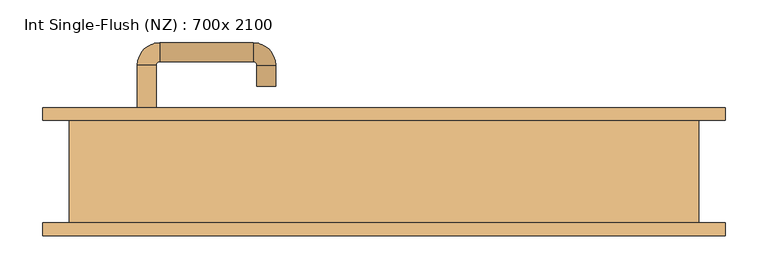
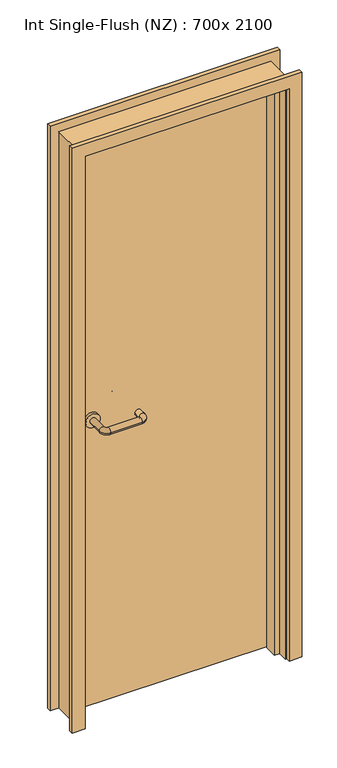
"""IFC4 building model written with IfcOpenShell, lengths in millimetres: door geometry, Int Single-Flush (NZ) : 700x 2100."""

import ifcopenshell
import ifcopenshell.guid

model = None  # the IFC model being written
_history = None  # IfcOwnerHistory: only IFC2X3 demands one
_inside = {}  # id of a spatial element -> (the spatial element, [elements in it])
_under = {}  # id of a project, library or spatial element -> (it, [spatial elements below it])
_declared = {}  # id of a project -> (the project, [libraries it declares])
_typed = {}  # id of a type object -> (the type object, [elements of that type])
_made_of = {}  # id of a material, layer set ... -> (it, [elements and type objects made of it])


def new_model(schema):
    """Start an empty IFC model of exactly this schema.

    Asked for "IFC4X3", IfcOpenShell would pick the latest addendum, in which some entities
    have other attributes; the version numbers below select the first issue.
    IFC2X3 requires an IfcOwnerHistory on every rooted entity: one is made here for all.
    """
    global model, _history
    if schema == "IFC4X3":
        model = ifcopenshell.file(schema_version=(4, 3, 0, 0))
    else:
        model = ifcopenshell.file(schema=schema)
    _inside.clear()
    _under.clear()
    _declared.clear()
    _typed.clear()
    _made_of.clear()
    _history = None
    if model.schema == "IFC2X3":
        org = make("IfcOrganization", Name="unknown")
        user = make(
            "IfcPersonAndOrganization",
            ThePerson=make("IfcPerson", FamilyName="unknown"),
            TheOrganization=org,
        )
        app = make(
            "IfcApplication",
            ApplicationDeveloper=org,
            Version="unknown",
            ApplicationFullName="unknown",
            ApplicationIdentifier="unknown",
        )
        _history = make(
            "IfcOwnerHistory",
            OwningUser=user,
            OwningApplication=app,
            ChangeAction="ADDED",
            CreationDate=0,
        )
    return model


def make(cls, **values):
    """One entity of the class cls with the attributes given. An attribute that is None is left unset."""
    return model.create_entity(
        cls, **{name: value for name, value in values.items() if value is not None}
    )


def rooted(cls, **values):
    """An entity with a GlobalId (a new one), such as an element, a storey or a relation."""
    return make(cls, GlobalId=ifcopenshell.guid.new(), OwnerHistory=_history, **values)


def si_unit(unit_type, name, prefix=None):
    """IfcSIUnit, for example si_unit("LENGTHUNIT", "METRE", prefix="MILLI")."""
    return make("IfcSIUnit", UnitType=unit_type, Prefix=prefix, Name=name)


def assignment(units):
    """IfcUnitAssignment: the units of a project."""
    return None if units is None else make("IfcUnitAssignment", Units=units)


def point(xyz):
    """IfcCartesianPoint."""
    return None if xyz is None else make("IfcCartesianPoint", Coordinates=xyz)


def direction(xyz):
    """IfcDirection."""
    return None if xyz is None else make("IfcDirection", DirectionRatios=xyz)


def frame(location, z_axis=None, x_axis=None):
    """IfcAxis2Placement3D, a coordinate frame: its origin and axes. An axis left out is left unset."""
    return make(
        "IfcAxis2Placement3D",
        Location=point(location),
        Axis=direction(z_axis),
        RefDirection=direction(x_axis),
    )


def frame_2d(location, x_axis=None):
    """IfcAxis2Placement2D, a coordinate frame in the plane: its origin and x axis."""
    return make(
        "IfcAxis2Placement2D", Location=point(location), RefDirection=direction(x_axis)
    )


def origin():
    """The frame at (0, 0, 0) with its axes left unset."""
    return frame((0.0, 0.0, 0.0))


def place(relative_to, where):
    """IfcLocalPlacement: puts the frame where relative to a parent placement (None: the world)."""
    return make(
        "IfcLocalPlacement", PlacementRelTo=relative_to, RelativePlacement=where
    )


def context(
    kind, dimensions, precision=None, world=None, true_north=None, identifier=None
):
    """IfcGeometricRepresentationContext, for example the 3D "Model" context."""
    return make(
        "IfcGeometricRepresentationContext",
        ContextIdentifier=identifier,
        ContextType=kind,
        CoordinateSpaceDimension=dimensions,
        Precision=precision,
        WorldCoordinateSystem=world,
        TrueNorth=true_north,
    )


def project(units=None, contexts=None):
    """IfcProject with its units and contexts."""
    return rooted(
        "IfcProject",
        Name="project",
        RepresentationContexts=contexts,
        UnitsInContext=assignment(units),
    )


def spatial(cls, under=None, at=None, **own):
    """A site, building, storey or space (cls), placed at a placement, below another one or the project."""
    s = rooted(cls, ObjectPlacement=at, **own)
    if under is not None:
        _under.setdefault(under.id(), (under, []))[1].append(s)
    return s


def polyline(points):
    """IfcPolyline through the points."""
    return make("IfcPolyline", Points=[point(p) for p in points])


def circle_curve(where, radius):
    """IfcCircle in the frame where."""
    return make("IfcCircle", Position=where, Radius=radius)


def ellipse_curve(where, semi_axis1, semi_axis2):
    """IfcEllipse in the frame where."""
    return make(
        "IfcEllipse", Position=where, SemiAxis1=semi_axis1, SemiAxis2=semi_axis2
    )


def trimmed(basis, trim1, trim2, sense, master):
    """IfcTrimmedCurve: the piece of a basis curve between two trims."""
    return make(
        "IfcTrimmedCurve",
        BasisCurve=basis,
        Trim1=trim1,
        Trim2=trim2,
        SenseAgreement=sense,
        MasterRepresentation=master,
    )


def segment(curve, same_sense, transition):
    """IfcCompositeCurveSegment."""
    return make(
        "IfcCompositeCurveSegment",
        Transition=transition,
        SameSense=same_sense,
        ParentCurve=curve,
    )


def composite_curve(segments, self_intersect=None):
    """IfcCompositeCurve: segments joined end to end."""
    return make("IfcCompositeCurve", Segments=segments, SelfIntersect=self_intersect)


def outline(outer, holes=None, kind="AREA"):
    """IfcArbitraryClosedProfileDef: a profile drawn as a closed curve; with holes, ...WithVoids."""
    if holes is None:
        return make("IfcArbitraryClosedProfileDef", ProfileType=kind, OuterCurve=outer)
    return make(
        "IfcArbitraryProfileDefWithVoids",
        ProfileType=kind,
        OuterCurve=outer,
        InnerCurves=holes,
    )


def extrude(swept, where, along, depth):
    """IfcExtrudedAreaSolid: the profile swept, set in the frame where, extruded along a direction by depth."""
    return make(
        "IfcExtrudedAreaSolid",
        SweptArea=swept,
        Position=where,
        ExtrudedDirection=direction(along),
        Depth=depth,
    )


def faces_of(points, faces, orient=None, outer=None):
    """IfcFace entities. A face is a list of loops; a loop is a list of indices into points, from 0.

    orient and outer hold one flag for each loop. By default every Orientation is true, the
    first loop of a face is its IfcFaceOuterBound and the others are IfcFaceBound.
    """
    made = []
    for i, loops in enumerate(faces):
        bounds = []
        for j, loop in enumerate(loops):
            is_outer = j == 0 if outer is None else outer[i][j]
            bounds.append(
                make(
                    "IfcFaceOuterBound" if is_outer else "IfcFaceBound",
                    Bound=make("IfcPolyLoop", Polygon=[points[k] for k in loop]),
                    Orientation=True if orient is None else orient[i][j],
                )
            )
        made.append(make("IfcFace", Bounds=bounds))
    return made


def faceted_brep(points, faces, orient=None, outer=None, voids=None):
    """IfcFacetedBrep: a solid bounded by flat faces; with voids (closed shells), ...WithVoids."""
    shared = [point(p) for p in points]
    hull = make("IfcClosedShell", CfsFaces=faces_of(shared, faces, orient, outer))
    if voids is None:
        return make("IfcFacetedBrep", Outer=hull)
    return make(
        "IfcFacetedBrepWithVoids",
        Outer=hull,
        Voids=[
            make(cls, CfsFaces=faces_of(shared, fs, o, b)) for cls, fs, o, b in voids
        ],
    )


def shape(context_of_items, identifier, shape_type, items):
    """IfcShapeRepresentation: the items that make up one representation, for example the "Body"."""
    return make(
        "IfcShapeRepresentation",
        ContextOfItems=context_of_items,
        RepresentationIdentifier=identifier,
        RepresentationType=shape_type,
        Items=items,
    )


def source(mapping_origin, context_of_items, identifier, shape_type, items):
    """IfcRepresentationMap: a shape defined once, which mapped items show again and again."""
    return make(
        "IfcRepresentationMap",
        MappingOrigin=mapping_origin,
        MappedRepresentation=shape(context_of_items, identifier, shape_type, items),
    )


def transform(
    local_origin,
    x_axis=None,
    y_axis=None,
    z_axis=None,
    scale=None,
    scale2=None,
    scale3=None,
    uniform=True,
):
    """IfcCartesianTransformationOperator3D, or its non-uniform kind. x_axis, y_axis, z_axis: its Axis1, 2, 3."""
    if uniform:
        return make(
            "IfcCartesianTransformationOperator3D",
            Axis1=direction(x_axis),
            Axis2=direction(y_axis),
            LocalOrigin=point(local_origin),
            Scale=scale,
            Axis3=direction(z_axis),
        )
    return make(
        "IfcCartesianTransformationOperator3DnonUniform",
        Axis1=direction(x_axis),
        Axis2=direction(y_axis),
        LocalOrigin=point(local_origin),
        Scale=scale,
        Axis3=direction(z_axis),
        Scale2=scale2,
        Scale3=scale3,
    )


def mapped(mapping_source, mapping_target):
    """IfcMappedItem: shows the shape of a source again, moved by a transform."""
    return make(
        "IfcMappedItem", MappingSource=mapping_source, MappingTarget=mapping_target
    )


def made_of(thing, what):
    """Note that an element or type object is made of a material, layer set ...; save() writes the relation."""
    if what is not None:
        _made_of.setdefault(what.id(), (what, []))[1].append(thing)
    return thing


def element(
    cls,
    number,
    at=None,
    inside=None,
    cuts=None,
    type_object=None,
    material=None,
    context=None,
    identifier="Body",
    shape_type=None,
    held_by="IfcProductDefinitionShape",
    body=None,
    shapes=None,
    **own,
):
    """One element of the class cls, such as IfcWall. Its Tag is "e" and its number.

    at: its placement. inside: the storey or other place that contains it. cuts: it is an
    opening in that element (IfcRelVoidsElement). A single representation is given by context,
    identifier, shape_type and body (its items); several are given by shapes. held_by: the class
    of the entity that holds the representations. save() writes the other relations.
    """
    e = rooted(cls, Tag="e%d" % number, ObjectPlacement=at, **own)
    if body is not None:
        shapes = [shape(context, identifier, shape_type, body)]
    if shapes is not None:
        e.Representation = make(held_by, Representations=shapes)
    if inside is not None:
        _inside.setdefault(inside.id(), (inside, []))[1].append(e)
    if cuts is not None:
        rooted(
            "IfcRelVoidsElement", RelatingBuildingElement=cuts, RelatedOpeningElement=e
        )
    if type_object is not None:
        _typed.setdefault(type_object.id(), (type_object, []))[1].append(e)
    return made_of(e, material)


def aggregate(whole, parts):
    """IfcRelAggregates: a whole, such as a stair, and the parts it consists of."""
    return rooted("IfcRelAggregates", RelatingObject=whole, RelatedObjects=parts)


def save(model, path):
    """Write the relations noted so far, then the file.

    IfcRelAggregates (storeys below a building ...), IfcRelContainedInSpatialStructure (elements
    in a storey), IfcRelDefinesByType, IfcRelAssociatesMaterial and IfcRelDeclares: one each for
    every whole, place, type object, material and project.
    """
    for whole, parts in _under.values():
        aggregate(whole, parts)
    for where, things in _inside.values():
        rooted(
            "IfcRelContainedInSpatialStructure",
            RelatedElements=things,
            RelatingStructure=where,
        )
    for kind, things in _typed.values():
        rooted("IfcRelDefinesByType", RelatedObjects=things, RelatingType=kind)
    for what, things in _made_of.values():
        rooted("IfcRelAssociatesMaterial", RelatedObjects=things, RelatingMaterial=what)
    for by, libraries in _declared.values():
        rooted("IfcRelDeclares", RelatingContext=by, RelatedDefinitions=libraries)
    model.write(path)


def plane_surface(at):
    """IfcPlane: the flat surface through the origin of the frame at, square to its z axis."""
    return make("IfcPlane", Position=at)


def cylinder_surface(at, radius):
    """IfcCylindricalSurface: all points at the distance radius from the z axis of the frame at."""
    return make("IfcCylindricalSurface", Position=at, Radius=radius)


def revolved_surface(curve, axis_point, axis_direction):
    """IfcSurfaceOfRevolution: the curve turned about the line through axis_point along axis_direction."""
    return make(
        "IfcSurfaceOfRevolution",
        SweptCurve=make("IfcArbitraryOpenProfileDef", ProfileType="CURVE", Curve=curve),
        AxisPosition=make("IfcAxis1Placement", Location=point(axis_point), Axis=direction(axis_direction)),
    )


def advanced_brep(points, edges, surfaces, faces):
    """IfcAdvancedBrep: a solid bounded by faces that lie on surfaces and meet in shared edges.

    An edge is (start, end): straight between two places in points (the first is 0);
    or (start, end, curve); or (start, end, curve, False) where it runs against its curve.
    A face is (place in surfaces, loops), or (place, loops, False) where it looks against
    its surface's normal. A loop lists edges by number (the first is 1), with a minus sign
    where the edge is run from its end to its start. The first loop is the outer one.
    """
    corners = [point(p) for p in points]
    vertices = [make("IfcVertexPoint", VertexGeometry=c) for c in corners]
    made = []
    for start, end, *more in edges:
        made.append(
            make(
                "IfcEdgeCurve",
                EdgeStart=vertices[start],
                EdgeEnd=vertices[end],
                EdgeGeometry=more[0] if more else make("IfcPolyline", Points=[corners[start], corners[end]]),
                SameSense=more[1] if len(more) > 1 else True,
            )
        )
    hull = []
    for where, loops, *sense in faces:
        bounds = []
        for j, loop in enumerate(loops):
            ring = [make("IfcOrientedEdge", EdgeElement=made[abs(k) - 1], Orientation=k > 0) for k in loop]
            bounds.append(
                make(
                    "IfcFaceOuterBound" if j == 0 else "IfcFaceBound",
                    Bound=make("IfcEdgeLoop", EdgeList=ring),
                    Orientation=True,
                )
            )
        hull.append(make("IfcAdvancedFace", Bounds=bounds, FaceSurface=surfaces[where], SameSense=sense[0] if sense else True))
    return make("IfcAdvancedBrep", Outer=make("IfcClosedShell", CfsFaces=hull))


def int_single_flush_nz_700x_2100_d6161bae(model_context):
    return source(origin(), model_context, "Body", "SolidModel", [
        extrude(outline(polyline([(2119.0, -444.0), (0.0, -444.0), (0.0, -425.0), (2100.0, -425.0), (2100.0, 275.0), (0.0, 275.0), (0.0, 294.0), (2119.0, 294.0), (2119.0, -444.0)])), frame((0.0, -60.0, 0.0), z_axis=(0.0, 1.0, 0.0), x_axis=(0.0, 0.0, 1.0)), (0.0, 0.0, 1.0), 120.0),
        faceted_brep([(-425.0, 19.0, 0.0), (-406.6719264, 19.0, 0.0), (-406.6719264, -26.0, 0.0), (-425.0, -26.0, 0.0), (-425.0, 19.0, 2100.0), (-406.6719264, 19.0, 2081.6719264), (-406.6719264, -26.0, 2081.6719264), (-425.0, -26.0, 2100.0), (275.0, 19.0, 0.0), (275.0, -26.0, 0.0), (256.6719264, -26.0, 0.0), (256.6719264, 19.0, 0.0), (275.0, 19.0, 2100.0), (275.0, -26.0, 2100.0), (256.6719264, -26.0, 2081.6719264), (256.6719264, 19.0, 2081.6719264)], [[[0, 1, 2, 3]], [[1, 0, 4, 5]], [[2, 1, 5, 6]], [[3, 2, 6, 7]], [[0, 3, 7, 4]], [[8, 9, 10, 11]], [[12, 13, 9, 8]], [[13, 14, 10, 9]], [[14, 15, 11, 10]], [[15, 12, 8, 11]], [[5, 4, 12, 15]], [[6, 5, 15, 14]], [[7, 6, 14, 13]], [[4, 7, 13, 12]]]),
        extrude(outline(polyline([(2150.0, 325.0), (2150.0, -475.0), (0.0, -475.0), (0.0, -430.0), (2105.0, -430.0), (2105.0, 280.0), (0.0, 280.0), (0.0, 325.0), (2150.0, 325.0)])), frame((0.0, 60.0, 0.0), z_axis=(0.0, 1.0, 0.0), x_axis=(0.0, 0.0, 1.0)), (0.0, 0.0, 1.0), 15.0),
        extrude(outline(polyline([(2150.0, -475.0), (0.0, -475.0), (0.0, -430.0), (2105.0, -430.0), (2105.0, 280.0), (0.0, 280.0), (0.0, 325.0), (2150.0, 325.0), (2150.0, -475.0)])), frame((0.0, -75.0, 0.0), z_axis=(0.0, 1.0, 0.0), x_axis=(0.0, 0.0, 1.0)), (0.0, 0.0, 1.0), 15.0),
        advanced_brep(
        [(-364.0, 12.0160352, 1053.0), (-342.0, 12.0160352, 1053.0), (-364.0, -42.9839648, 1053.0), (-342.0, -42.9839648, 1053.0), (-338.0, -46.9839648, 1053.0), (-338.0, -68.9839648, 1053.0), (-228.0, -68.9839648, 1053.0), (-228.0, -46.9839648, 1053.0), (-224.0, -42.9839648, 1053.0), (-202.0, -42.9839648, 1053.0), (-202.0, -17.9839648, 1053.0), (-224.0, -17.9839648, 1053.0)],
        [
            (0, 1, circle_curve(frame((-353.0, 12.0160352, 1053.0), z_axis=(0.0, 1.0, 0.0), x_axis=(1.0, 0.0, 0.0)), 11.0)),
            (1, 0, circle_curve(frame((-353.0, 12.0160352, 1053.0), z_axis=(0.0, 1.0, 0.0), x_axis=(1.0, 0.0, 0.0)), 11.0)),
            (0, 2),
            (2, 3, circle_curve(frame((-353.0, -42.9839648, 1053.0), z_axis=(0.0, 1.0, 0.0), x_axis=(1.0, 0.0, 0.0)), 11.0)),
            (3, 1),
            (3, 2, circle_curve(frame((-353.0, -42.9839648, 1053.0), z_axis=(0.0, 1.0, 0.0), x_axis=(1.0, 0.0, 0.0)), 11.0)),
            (4, 3, circle_curve(frame((-338.0, -42.9839648, 1053.0), z_axis=(0.0, 0.0, -1.0), x_axis=(-1.0, 0.0, 0.0)), 4.0)),
            (2, 5, circle_curve(frame((-338.0, -42.9839648, 1053.0), z_axis=(0.0, 0.0, 1.0), x_axis=(-1.0, 0.0, 0.0)), 26.0)),
            (5, 4, circle_curve(frame((-338.0, -57.9839648, 1053.0), z_axis=(-1.0, 0.0, 0.0), x_axis=(0.0, 1.0, 0.0)), 11.0)),
            (4, 5, circle_curve(frame((-338.0, -57.9839648, 1053.0), z_axis=(-1.0, 0.0, 0.0), x_axis=(0.0, 1.0, 0.0)), 11.0)),
            (5, 6),
            (6, 7, circle_curve(frame((-228.0, -57.9839648, 1053.0), z_axis=(-1.0, 0.0, 0.0), x_axis=(0.0, 1.0, 0.0)), 11.0)),
            (7, 4),
            (7, 6, circle_curve(frame((-228.0, -57.9839648, 1053.0), z_axis=(-1.0, 0.0, 0.0), x_axis=(0.0, 1.0, 0.0)), 11.0)),
            (8, 7, circle_curve(frame((-228.0, -42.9839648, 1053.0), z_axis=(0.0, 0.0, -1.0), x_axis=(0.0, -1.0, 0.0)), 4.0)),
            (6, 9, circle_curve(frame((-228.0, -42.9839648, 1053.0), z_axis=(0.0, 0.0, 1.0), x_axis=(0.0, -1.0, 0.0)), 26.0)),
            (9, 8, circle_curve(frame((-213.0, -42.9839648, 1053.0), z_axis=(0.0, -1.0, 0.0), x_axis=(-1.0, 0.0, 0.0)), 11.0)),
            (8, 9, circle_curve(frame((-213.0, -42.9839648, 1053.0), z_axis=(0.0, -1.0, 0.0), x_axis=(-1.0, 0.0, 0.0)), 11.0)),
            (10, 11, circle_curve(frame((-213.0, -17.9839648, 1053.0), z_axis=(0.0, 1.0, 0.0), x_axis=(-1.0, 0.0, 0.0)), 11.0)),
            (11, 10, circle_curve(frame((-213.0, -17.9839648, 1053.0), z_axis=(0.0, 1.0, 0.0), x_axis=(-1.0, 0.0, 0.0)), 11.0)),
            (9, 10),
            (11, 8),
        ],
        [
            plane_surface(frame((-364.0, 12.0160352, 1053.0), z_axis=(0.0, 1.0, 0.0), x_axis=(0.0, 0.0, -1.0))),
            cylinder_surface(frame((-353.0, 12.0160352, 1053.0), z_axis=(0.0, 1.0, 0.0), x_axis=(1.0, 0.0, 0.0)), 11.0),
            revolved_surface(trimmed(ellipse_curve(frame((-353.0, -42.9839648, 1053.0), z_axis=(0.0, 1.0, 0.0), x_axis=(1.0, 0.0, 0.0)), 11.0, 11.0), [point((-364.0, -42.9839648, 1053.0))], [point((-342.0, -42.9839648, 1053.0))], True, "CARTESIAN"), (-338.0, -42.9839648, 1053.0), (0.0, 0.0, 1.0)),
            revolved_surface(trimmed(ellipse_curve(frame((-353.0, -42.9839648, 1053.0), z_axis=(0.0, 1.0, 0.0), x_axis=(1.0, 0.0, 0.0)), 11.0, 11.0), [point((-342.0, -42.9839648, 1053.0))], [point((-364.0, -42.9839648, 1053.0))], True, "CARTESIAN"), (-338.0, -42.9839648, 1053.0), (0.0, 0.0, 1.0)),
            cylinder_surface(frame((-338.0, -57.9839648, 1053.0), z_axis=(-1.0, 0.0, 0.0), x_axis=(0.0, 1.0, 0.0)), 11.0),
            revolved_surface(trimmed(ellipse_curve(frame((-228.0, -57.9839648, 1053.0), z_axis=(-1.0, 0.0, 0.0), x_axis=(0.0, 1.0, 0.0)), 11.0, 11.0), [point((-228.0, -68.9839648, 1053.0))], [point((-228.0, -46.9839648, 1053.0))], True, "CARTESIAN"), (-228.0, -42.9839648, 1053.0), (0.0, 0.0, 1.0)),
            revolved_surface(trimmed(ellipse_curve(frame((-228.0, -57.9839648, 1053.0), z_axis=(-1.0, 0.0, 0.0), x_axis=(0.0, 1.0, 0.0)), 11.0, 11.0), [point((-228.0, -46.9839648, 1053.0))], [point((-228.0, -68.9839648, 1053.0))], True, "CARTESIAN"), (-228.0, -42.9839648, 1053.0), (0.0, 0.0, 1.0)),
            plane_surface(frame((-224.0, -17.9839648, 1053.0), z_axis=(0.0, 1.0, 0.0), x_axis=(0.0, 0.0, 1.0))),
            cylinder_surface(frame((-213.0, -42.9839648, 1053.0), z_axis=(0.0, -1.0, 0.0), x_axis=(-1.0, 0.0, 0.0)), 11.0),
        ],
        [
            (0, [[1, 2]]),
            (1, [[-1, 3, 4, 5]]),
            (1, [[-2, -5, 6, -3]]),
            (2, [[7, -4, 8, 9]]),
            (3, [[-8, -6, -7, 10]]),
            (4, [[-9, 11, 12, 13]]),
            (4, [[-10, -13, 14, -11]]),
            (5, [[15, -12, 16, 17]]),
            (6, [[-16, -14, -15, 18]]),
            (7, [[19, 20]]),
            (8, [[-17, 21, -20, 22]]),
            (8, [[-18, -22, -19, -21]]),
        ],
    ),
        extrude(outline(composite_curve([segment(trimmed(circle_curve(frame_2d((1053.0, -353.0)), 25.0), [point((1053.0, -378.0))], [point((1053.0, -328.0))], False, "CARTESIAN"), True, "CONTINUOUS"), segment(trimmed(circle_curve(frame_2d((1053.0, -353.0)), 25.0), [point((1053.0, -328.0))], [point((1053.0, -378.0))], False, "CARTESIAN"), True, "CONTINUOUS")], self_intersect=False)), frame((0.0, 12.0160352, 0.0), z_axis=(0.0, 1.0, 0.0), x_axis=(0.0, 0.0, 1.0)), (0.0, 0.0, 1.0), 9.9839648),
        advanced_brep(
        [(-342.0, 70.0, 1053.0), (-364.0, 70.0, 1053.0), (-342.0, 125.0, 1053.0), (-364.0, 125.0, 1053.0), (-338.0, 151.0, 1053.0), (-338.0, 129.0, 1053.0), (-228.0, 129.0, 1053.0), (-228.0, 151.0, 1053.0), (-202.0, 125.0, 1053.0), (-224.0, 125.0, 1053.0), (-224.0, 100.0, 1053.0), (-202.0, 100.0, 1053.0)],
        [
            (0, 1, circle_curve(frame((-353.0, 70.0, 1053.0), z_axis=(0.0, -1.0, 0.0), x_axis=(-1.0, 0.0, 0.0)), 11.0)),
            (1, 0, circle_curve(frame((-353.0, 70.0, 1053.0), z_axis=(0.0, -1.0, 0.0), x_axis=(-1.0, 0.0, 0.0)), 11.0)),
            (0, 2),
            (2, 3, circle_curve(frame((-353.0, 125.0, 1053.0), z_axis=(0.0, -1.0, 0.0), x_axis=(-1.0, 0.0, 0.0)), 11.0)),
            (3, 1),
            (3, 2, circle_curve(frame((-353.0, 125.0, 1053.0), z_axis=(0.0, -1.0, 0.0), x_axis=(-1.0, 0.0, 0.0)), 11.0)),
            (4, 3, circle_curve(frame((-338.0, 125.0, 1053.0), z_axis=(0.0, 0.0, 1.0), x_axis=(-1.0, 0.0, 0.0)), 26.0)),
            (2, 5, circle_curve(frame((-338.0, 125.0, 1053.0), z_axis=(0.0, 0.0, -1.0), x_axis=(-1.0, 0.0, 0.0)), 4.0)),
            (5, 4, circle_curve(frame((-338.0, 140.0, 1053.0), z_axis=(-1.0, 0.0, 0.0), x_axis=(0.0, 1.0, 0.0)), 11.0)),
            (4, 5, circle_curve(frame((-338.0, 140.0, 1053.0), z_axis=(-1.0, 0.0, 0.0), x_axis=(0.0, 1.0, 0.0)), 11.0)),
            (5, 6),
            (6, 7, circle_curve(frame((-228.0, 140.0, 1053.0), z_axis=(-1.0, 0.0, 0.0), x_axis=(0.0, 1.0, 0.0)), 11.0)),
            (7, 4),
            (7, 6, circle_curve(frame((-228.0, 140.0, 1053.0), z_axis=(-1.0, 0.0, 0.0), x_axis=(0.0, 1.0, 0.0)), 11.0)),
            (8, 7, circle_curve(frame((-228.0, 125.0, 1053.0), z_axis=(0.0, 0.0, 1.0), x_axis=(0.0, 1.0, 0.0)), 26.0)),
            (6, 9, circle_curve(frame((-228.0, 125.0, 1053.0), z_axis=(0.0, 0.0, -1.0), x_axis=(0.0, 1.0, 0.0)), 4.0)),
            (9, 8, circle_curve(frame((-213.0, 125.0, 1053.0), z_axis=(0.0, 1.0, 0.0), x_axis=(1.0, 0.0, 0.0)), 11.0)),
            (8, 9, circle_curve(frame((-213.0, 125.0, 1053.0), z_axis=(0.0, 1.0, 0.0), x_axis=(1.0, 0.0, 0.0)), 11.0)),
            (10, 11, circle_curve(frame((-213.0, 100.0, 1053.0), z_axis=(0.0, -1.0, 0.0), x_axis=(1.0, 0.0, 0.0)), 11.0)),
            (11, 10, circle_curve(frame((-213.0, 100.0, 1053.0), z_axis=(0.0, -1.0, 0.0), x_axis=(1.0, 0.0, 0.0)), 11.0)),
            (9, 10),
            (11, 8),
        ],
        [
            plane_surface(frame((-364.0, 70.0, 1053.0), z_axis=(0.0, -1.0, 0.0), x_axis=(0.0, 0.0, 1.0))),
            cylinder_surface(frame((-353.0, 70.0, 1053.0), z_axis=(0.0, -1.0, 0.0), x_axis=(-1.0, 0.0, 0.0)), 11.0),
            revolved_surface(trimmed(ellipse_curve(frame((-353.0, 125.0, 1053.0), z_axis=(0.0, -1.0, 0.0), x_axis=(-1.0, 0.0, 0.0)), 11.0, 11.0), [point((-342.0, 125.0, 1053.0))], [point((-364.0, 125.0, 1053.0))], True, "CARTESIAN"), (-338.0, 125.0, 1053.0), (0.0, 0.0, -1.0)),
            revolved_surface(trimmed(ellipse_curve(frame((-353.0, 125.0, 1053.0), z_axis=(0.0, -1.0, 0.0), x_axis=(-1.0, 0.0, 0.0)), 11.0, 11.0), [point((-364.0, 125.0, 1053.0))], [point((-342.0, 125.0, 1053.0))], True, "CARTESIAN"), (-338.0, 125.0, 1053.0), (0.0, 0.0, -1.0)),
            cylinder_surface(frame((-338.0, 140.0, 1053.0), z_axis=(-1.0, 0.0, 0.0), x_axis=(0.0, 1.0, 0.0)), 11.0),
            revolved_surface(trimmed(ellipse_curve(frame((-228.0, 140.0, 1053.0), z_axis=(-1.0, 0.0, 0.0), x_axis=(0.0, 1.0, 0.0)), 11.0, 11.0), [point((-228.0, 129.0, 1053.0))], [point((-228.0, 151.0, 1053.0))], True, "CARTESIAN"), (-228.0, 125.0, 1053.0), (0.0, 0.0, -1.0)),
            revolved_surface(trimmed(ellipse_curve(frame((-228.0, 140.0, 1053.0), z_axis=(-1.0, 0.0, 0.0), x_axis=(0.0, 1.0, 0.0)), 11.0, 11.0), [point((-228.0, 151.0, 1053.0))], [point((-228.0, 129.0, 1053.0))], True, "CARTESIAN"), (-228.0, 125.0, 1053.0), (0.0, 0.0, -1.0)),
            plane_surface(frame((-224.0, 100.0, 1053.0), z_axis=(0.0, -1.0, 0.0), x_axis=(0.0, 0.0, -1.0))),
            cylinder_surface(frame((-213.0, 125.0, 1053.0), z_axis=(0.0, 1.0, 0.0), x_axis=(1.0, 0.0, 0.0)), 11.0),
        ],
        [
            (0, [[1, 2]]),
            (1, [[-1, 3, 4, 5]]),
            (1, [[-2, -5, 6, -3]]),
            (2, [[7, -4, 8, 9]]),
            (3, [[-8, -6, -7, 10]]),
            (4, [[-9, 11, 12, 13]]),
            (4, [[-10, -13, 14, -11]]),
            (5, [[15, -12, 16, 17]]),
            (6, [[-16, -14, -15, 18]]),
            (7, [[19, 20]]),
            (8, [[-17, 21, -20, 22]]),
            (8, [[-18, -22, -19, -21]]),
        ],
    ),
        extrude(outline(composite_curve([segment(trimmed(circle_curve(frame_2d((1053.0, -353.0)), 25.0), [point((1053.0, -328.0))], [point((1053.0, -378.0))], False, "CARTESIAN"), True, "CONTINUOUS"), segment(trimmed(circle_curve(frame_2d((1053.0, -353.0)), 25.0), [point((1053.0, -378.0))], [point((1053.0, -328.0))], False, "CARTESIAN"), True, "CONTINUOUS")], self_intersect=False)), frame((0.0, 60.0, 0.0), z_axis=(0.0, 1.0, 0.0), x_axis=(0.0, 0.0, 1.0)), (0.0, 0.0, 1.0), 10.0),
        extrude(outline(polyline([(272.0, 22.0), (-428.0, 22.0), (-428.0, 60.0), (272.0, 60.0), (272.0, 22.0)])), frame((0.0, 0.0, 3.0), z_axis=(0.0, 0.0, 1.0), x_axis=(1.0, 0.0, 0.0)), (0.0, 0.0, 1.0), 2094.0),
    ])


if __name__ == "__main__":
    model = new_model("IFC4")
    model_context = context("Model", 3, world=origin())
    ifc_project = project(units=[si_unit("LENGTHUNIT", "METRE", prefix="MILLI")], contexts=[model_context])
    site = spatial("IfcSite", under=ifc_project)
    building = spatial("IfcBuilding", under=site)
    placement = place(None, origin())
    int_single_flush_nz_700x_2100_shape = int_single_flush_nz_700x_2100_d6161bae(model_context)
    element("IfcDoor", 1, ObjectType="Int Single-Flush (NZ) : 700x 2100", at=placement, inside=building, context=model_context, shape_type="MappedRepresentation", body=[
        mapped(int_single_flush_nz_700x_2100_shape, transform((0.0, 0.0, 0.0), x_axis=(1.0, 0.0, 0.0), y_axis=(0.0, 1.0, 0.0), z_axis=(0.0, 0.0, 1.0))),
    ])
    save(model, "model.ifc")
